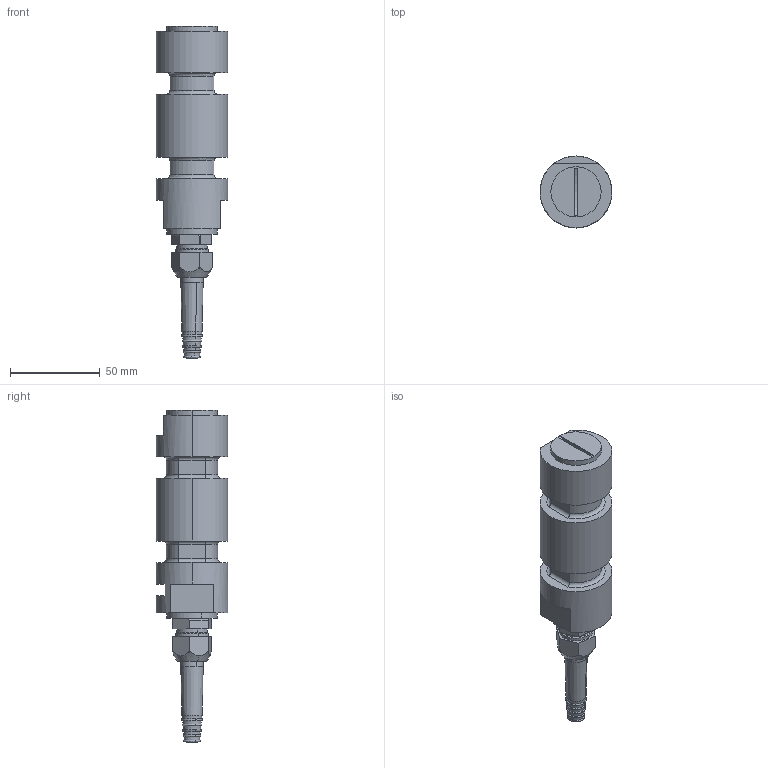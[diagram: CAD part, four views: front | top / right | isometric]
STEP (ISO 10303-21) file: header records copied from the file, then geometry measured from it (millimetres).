
FILE_DESCRIPTION (( 'STEP AP214' ), '1' );
FILE_NAME ('KOSD-40 10 kN Load Cell.STEP', '2021-03-15T09:53:46', ( '' ), ( '' ), 'SwSTEP 2.0', 'SolidWorks 2021', '' );
FILE_SCHEMA (( 'AUTOMOTIVE_DESIGN' ));
Length unit declared in the file: millimetre
Products named in the file (5): 400057r1; M26x1.5 - Lock - 600490r1; M26x1.5 - Pg9 - 6369829; KOSD-40 10 kN Load Cell; Pg9 - 1009.52 6_2_14
Assembly tree (4 placements, depth 2):
  KOSD-40 10 kN Load Cell
    400057r1
    M26x1.5 - Pg9 - 6369829
    Pg9 - 1009.52 6_2_14
    M26x1.5 - Lock - 600490r1
Bounding box: 40 x 40 x 185 mm (x, y, z)
Volume: 133329.6 mm3; surface area: 30763.3 mm2
Topology: 4 solids, 7 shells, 214 faces, 494 edges, 311 vertices
Faces by surface type: cylinder 76, plane 59, cone 45, torus 18, bspline 16
Entity records: 10994 total; most frequent: CARTESIAN_POINT 5640, ORIENTED_EDGE 984, DIRECTION 978, EDGE_CURVE 492, AXIS2_PLACEMENT_3D 412, VERTEX_POINT 311, EDGE_LOOP 243, FACE_OUTER_BOUND 214
